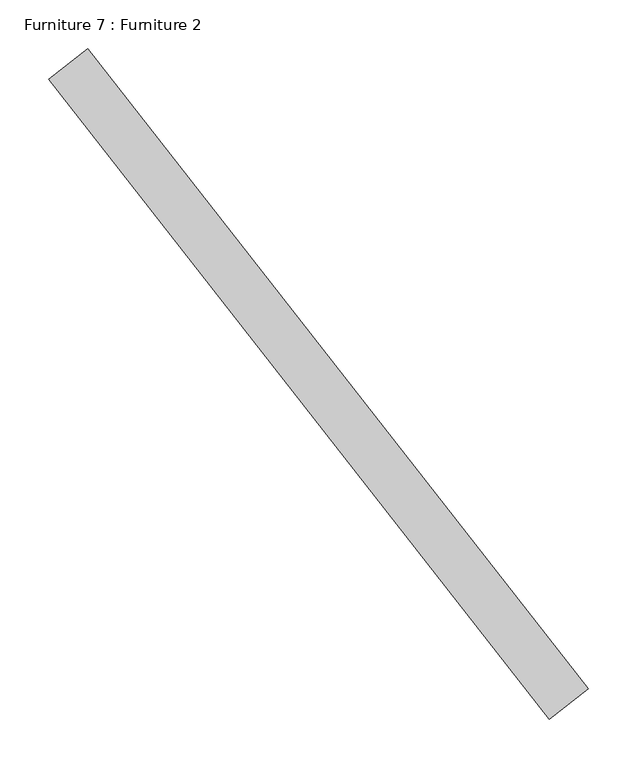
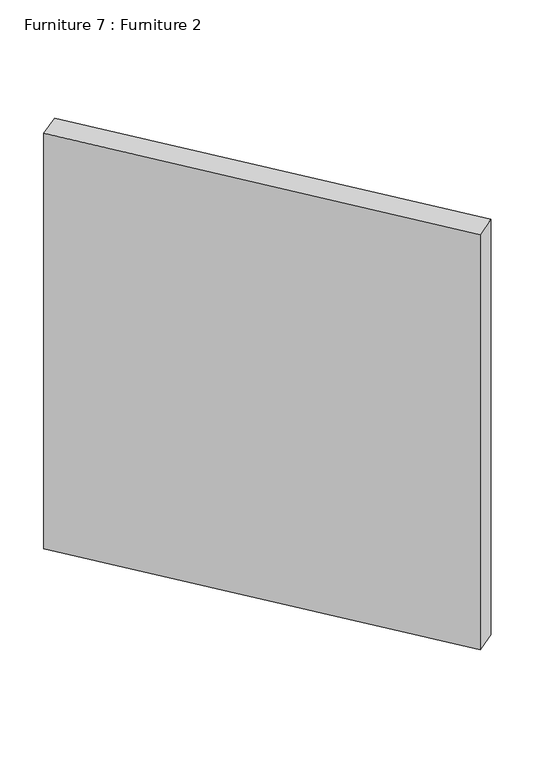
"""IFC4 building model written with IfcOpenShell, lengths in millimetres: furniture geometry, Furniture 7 : Furniture 2."""

from ifc_helpers import new_model, si_unit, frame, origin, place, context, project, spatial, polyline, outline, extrude, source, transform, mapped, element, save


def furniture_7_furniture_2_ebe54496(model_context):
    return source(origin(), model_context, "Body", "SweptSolid", [
        extrude(outline(polyline([(-8567.1102523, 4788.2963278), (-8607.3040239, 4756.8704678), (-9122.2598707, 5415.5005802), (-9082.066099, 5446.9264402), (-8567.1102523, 4788.2963278)])), frame((0.0, 0.0, 2500.0), z_axis=(0.0, 0.0, 1.0), x_axis=(1.0, 0.0, 0.0)), (0.0, 0.0, 1.0), 900.0),
    ])


if __name__ == "__main__":
    model = new_model("IFC4")
    model_context = context("Model", 3, world=origin())
    ifc_project = project(units=[si_unit("LENGTHUNIT", "METRE", prefix="MILLI")], contexts=[model_context])
    site = spatial("IfcSite", under=ifc_project)
    building = spatial("IfcBuilding", under=site)
    placement = place(None, origin())
    furniture_7_furniture_2_shape = furniture_7_furniture_2_ebe54496(model_context)
    element("IfcFurniture", 1, ObjectType="Furniture 7 : Furniture 2", at=placement, inside=building, context=model_context, shape_type="MappedRepresentation", body=[
        mapped(furniture_7_furniture_2_shape, transform((0.0, 0.0, 0.0), x_axis=(1.0, 0.0, 0.0), y_axis=(0.0, 1.0, 0.0), z_axis=(0.0, 0.0, 1.0))),
    ])
    save(model, "model.ifc")
